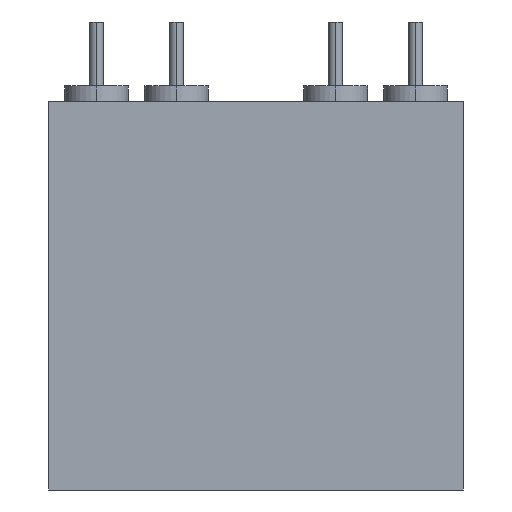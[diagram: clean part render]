
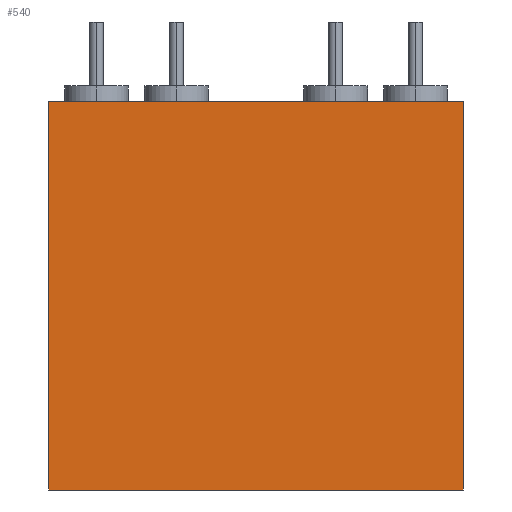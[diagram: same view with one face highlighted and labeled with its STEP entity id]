
A CAD part, left-side view. The second image highlights one B-rep face of the part: STEP entity #540.
In plain terms, the highlighted planar face has unit normal (-1, 0, 0).
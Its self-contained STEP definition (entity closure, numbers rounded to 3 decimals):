
#134=DIRECTION('',(0.,1.,0.));
#135=VECTOR('',#134,19.812);
#136=CARTESIAN_POINT('',(-28.321,-9.906,0.));
#137=LINE('',#136,#135);
#190=DIRECTION('',(0.,0.,1.));
#191=VECTOR('',#190,18.542);
#192=CARTESIAN_POINT('',(-28.321,9.906,-18.542));
#193=LINE('',#192,#191);
#194=DIRECTION('',(0.,0.,1.));
#195=VECTOR('',#194,18.542);
#196=CARTESIAN_POINT('',(-28.321,-9.906,-18.542));
#197=LINE('',#196,#195);
#206=DIRECTION('',(0.,1.,0.));
#207=VECTOR('',#206,19.812);
#208=CARTESIAN_POINT('',(-28.321,-9.906,-18.542));
#209=LINE('',#208,#207);
#406=CARTESIAN_POINT('',(-28.321,-9.906,0.));
#407=CARTESIAN_POINT('',(-28.321,9.906,0.));
#408=VERTEX_POINT('',#406);
#409=VERTEX_POINT('',#407);
#414=CARTESIAN_POINT('',(-28.321,-9.906,-18.542));
#415=CARTESIAN_POINT('',(-28.321,9.906,-18.542));
#416=VERTEX_POINT('',#414);
#417=VERTEX_POINT('',#415);
#526=CARTESIAN_POINT('',(-28.321,9.906,0.));
#527=DIRECTION('',(-1.,0.,0.));
#528=DIRECTION('',(0.,-1.,0.));
#529=AXIS2_PLACEMENT_3D('',#526,#527,#528);
#530=PLANE('',#529);
#531=ORIENTED_EDGE('',*,*,#491,.F.);
#533=ORIENTED_EDGE('',*,*,#532,.F.);
#535=ORIENTED_EDGE('',*,*,#534,.T.);
#537=ORIENTED_EDGE('',*,*,#536,.T.);
#538=EDGE_LOOP('',(#531,#533,#535,#537));
#539=FACE_OUTER_BOUND('',#538,.F.);
#491=EDGE_CURVE('',#408,#409,#137,.T.);
#532=EDGE_CURVE('',#416,#408,#197,.T.);
#534=EDGE_CURVE('',#416,#417,#209,.T.);
#536=EDGE_CURVE('',#417,#409,#193,.T.);
#540=ADVANCED_FACE('',(#539),#530,.T.);
